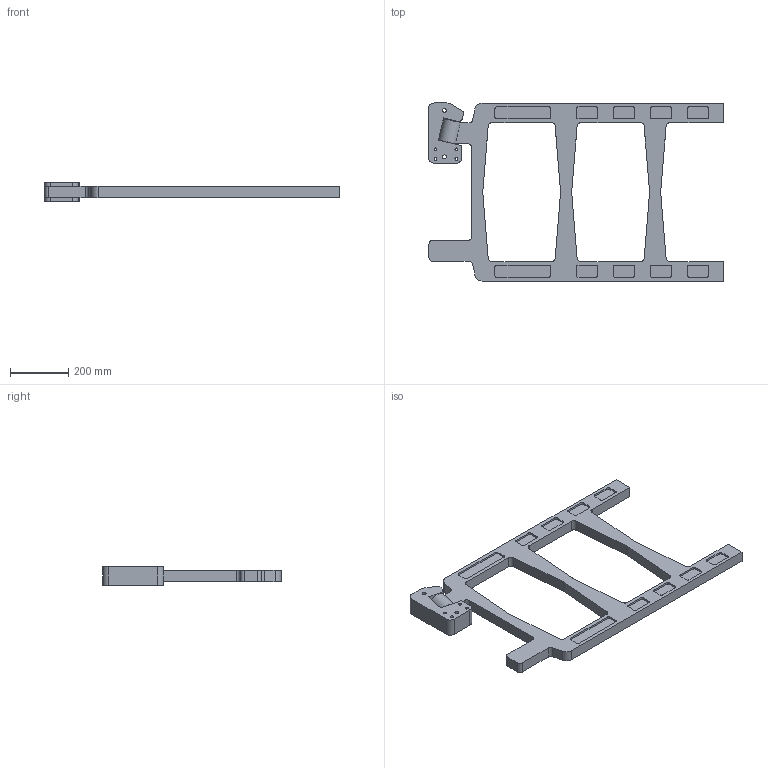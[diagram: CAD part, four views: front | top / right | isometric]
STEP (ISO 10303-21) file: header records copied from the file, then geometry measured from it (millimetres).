
FILE_DESCRIPTION(/* description */ (''),/* implementation_level */ '2;1');
FILE_NAME(/* name */ 'D:\VDV Techniek\Documents\Inventor\_ISP_Products\Safety Gate nagetekend model\UDG-32_Safety_Gate.stp',/* time_stamp */ '2017-06-06T22:18:08+02:00',/* author */ ('VDV Techniek'),/* organization */ (''),/* preprocessor_version */ 'ST-DEVELOPER v15.2',/* originating_system */ 'Autodesk Inventor 2014',/* authorisation */ '');
FILE_SCHEMA (('AUTOMOTIVE_DESIGN { 1 0 10303 214 3 1 1 }'));
Length unit declared in the file: millimetre
Products named in the file (3): Hinge; Blade UDG-32; UDG-32_Safety_Gate
Bounding box: 1009.93 x 610.03 x 64 mm (x, y, z)
Volume: 8558421.4 mm3; surface area: 804017.1 mm2
Topology: 2 solids, 2 shells, 266 faces, 716 edges, 476 vertices
Faces by surface type: plane 146, cylinder 120
Full cylindrical faces by diameter (mm): 10 x4, 13.21 x2, 25.65 x3
Entity records: 8444 total; most frequent: DIRECTION 1489, CARTESIAN_POINT 1454, ORIENTED_EDGE 1414, EDGE_CURVE 707, AXIS2_PLACEMENT_3D 511, VERTEX_POINT 476, LINE 467, VECTOR 467
